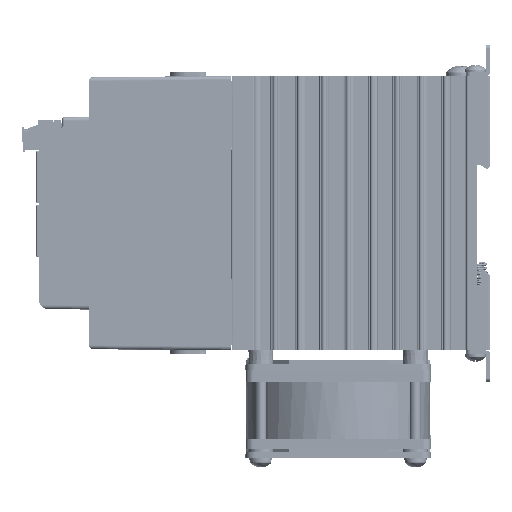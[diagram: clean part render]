
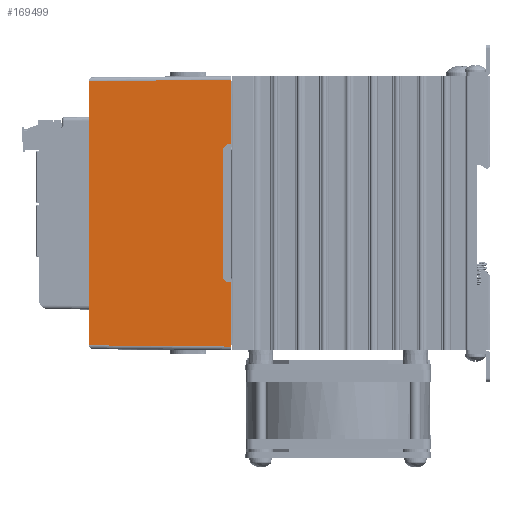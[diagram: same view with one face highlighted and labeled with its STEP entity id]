
A CAD part, left-side view. The second image highlights one B-rep face of the part: STEP entity #169499.
In plain terms, the highlighted planar face has unit normal (-1, 0.009, 0) as drawn and (-1, 0, 0.009) by its records, which use the part's own axes.
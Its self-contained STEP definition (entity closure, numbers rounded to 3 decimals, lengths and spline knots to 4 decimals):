
#17288=FACE_OUTER_BOUND('',#26511,.T.);
#26511=EDGE_LOOP('',(#142558,#142559,#142560,#142561,#142562,#142563,#142564,
#142565,#142566,#142567));
#42624=LINE('',#288787,#61479);
#43419=LINE('',#290757,#62274);
#43422=LINE('',#290762,#62277);
#43424=LINE('',#290767,#62279);
#43430=LINE('',#290778,#62285);
#43434=LINE('',#290786,#62289);
#43442=LINE('',#290806,#62297);
#43443=LINE('',#290808,#62298);
#43444=LINE('',#290810,#62299);
#43445=LINE('',#290811,#62300);
#61479=VECTOR('',#216231,0.3937);
#62274=VECTOR('',#218084,0.3937);
#62277=VECTOR('',#218089,0.3937);
#62279=VECTOR('',#218093,0.3937);
#62285=VECTOR('',#218103,0.3937);
#62289=VECTOR('',#218111,0.3937);
#62297=VECTOR('',#218131,0.3937);
#62298=VECTOR('',#218134,0.3937);
#62299=VECTOR('',#218135,0.3937);
#62300=VECTOR('',#218136,0.3937);
#77990=VERTEX_POINT('',#288784);
#77991=VERTEX_POINT('',#288786);
#78534=VERTEX_POINT('',#290754);
#78535=VERTEX_POINT('',#290756);
#78536=VERTEX_POINT('',#290760);
#78537=VERTEX_POINT('',#290764);
#78538=VERTEX_POINT('',#290766);
#78541=VERTEX_POINT('',#290776);
#78549=VERTEX_POINT('',#290804);
#78550=VERTEX_POINT('',#290809);
#99773=EDGE_CURVE('',#77991,#77990,#42624,.T.);
#100727=EDGE_CURVE('',#78535,#78534,#43419,.T.);
#100730=EDGE_CURVE('',#78534,#78536,#43422,.T.);
#100732=EDGE_CURVE('',#78538,#78537,#43424,.T.);
#100738=EDGE_CURVE('',#78536,#78541,#43430,.T.);
#100742=EDGE_CURVE('',#78541,#78538,#43434,.T.);
#100752=EDGE_CURVE('',#78537,#78549,#43442,.T.);
#100753=EDGE_CURVE('',#77991,#78549,#43443,.T.);
#100754=EDGE_CURVE('',#78550,#77990,#43444,.T.);
#100755=EDGE_CURVE('',#78550,#78535,#43445,.T.);
#142558=ORIENTED_EDGE('',*,*,#100727,.T.);
#142559=ORIENTED_EDGE('',*,*,#100730,.T.);
#142560=ORIENTED_EDGE('',*,*,#100738,.T.);
#142561=ORIENTED_EDGE('',*,*,#100742,.T.);
#142562=ORIENTED_EDGE('',*,*,#100732,.T.);
#142563=ORIENTED_EDGE('',*,*,#100752,.T.);
#142564=ORIENTED_EDGE('',*,*,#100753,.F.);
#142565=ORIENTED_EDGE('',*,*,#99773,.T.);
#142566=ORIENTED_EDGE('',*,*,#100754,.F.);
#142567=ORIENTED_EDGE('',*,*,#100755,.T.);
#161607=PLANE('',#181644);
#169499=ADVANCED_FACE('',(#17288),#161607,.T.);
#181644=AXIS2_PLACEMENT_3D('',#290807,#218132,#218133);
#216231=DIRECTION('',(0.,1.,0.));
#218084=DIRECTION('',(0.009,-0.009,1.));
#218089=DIRECTION('',(0.006,-0.71,0.704));
#218093=DIRECTION('',(-0.009,-0.009,-1.));
#218103=DIRECTION('',(0.,-1.,0.));
#218111=DIRECTION('',(-0.006,-0.71,-0.704));
#218131=DIRECTION('',(0.,-1.,0.));
#218132=DIRECTION('center_axis',(-1.,0.,
0.009));
#218133=DIRECTION('ref_axis',(0.,-1.,0.));
#218134=DIRECTION('',(-0.009,-0.009,-1.));
#218135=DIRECTION('',(0.009,-0.009,1.));
#218136=DIRECTION('',(0.,-1.,0.));
#288784=CARTESIAN_POINT('',(0.0158,3.4342,1.811));
#288786=CARTESIAN_POINT('',(0.0158,0.0658,1.811));
#288787=CARTESIAN_POINT('',(0.0158,3.5,1.811));
#290754=CARTESIAN_POINT('',(0.0005,2.6295,0.0521));
#290756=CARTESIAN_POINT('',(0.,2.63,0.));
#290757=CARTESIAN_POINT('',(0.0001,2.6299,0.0115));
#290760=CARTESIAN_POINT('',(0.0009,2.5762,0.105));
#290762=CARTESIAN_POINT('',(0.0061,1.9795,0.6965));
#290764=CARTESIAN_POINT('',(0.,0.87,0.));
#290766=CARTESIAN_POINT('',(0.0005,0.8705,0.0521));
#290767=CARTESIAN_POINT('',(0.0002,0.8702,0.0223));
#290776=CARTESIAN_POINT('',(0.0009,0.9238,0.105));
#290778=CARTESIAN_POINT('',(0.0009,1.2881,0.105));
#290786=CARTESIAN_POINT('',(-0.0013,0.6646,-0.152));
#290804=CARTESIAN_POINT('',(0.,0.05,0.));
#290806=CARTESIAN_POINT('',(0.,3.5,0.));
#290807=CARTESIAN_POINT('Origin',(0.,0.,0.));
#290808=CARTESIAN_POINT('',(0.0001,0.0501,0.0118));
#290809=CARTESIAN_POINT('',(0.,3.45,0.));
#290810=CARTESIAN_POINT('',(0.0001,3.4499,0.0148));
#290811=CARTESIAN_POINT('',(0.,3.5,0.));
